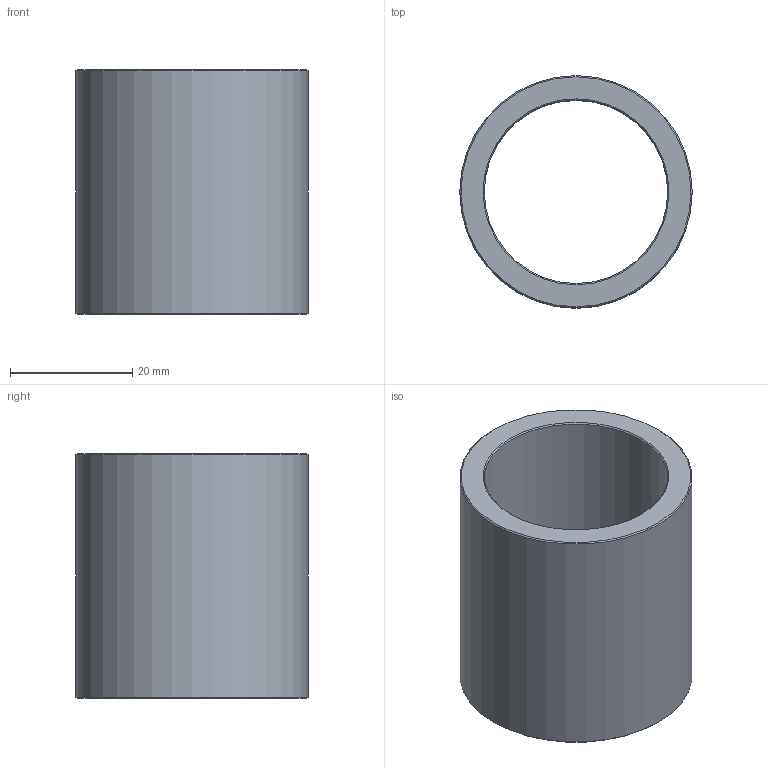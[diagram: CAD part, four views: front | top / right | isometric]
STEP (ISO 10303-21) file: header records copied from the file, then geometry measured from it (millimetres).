
FILE_DESCRIPTION(('STEP AP203'),'1');
FILE_NAME('C:/Users/Rodrigo/Desktop/GA4.030.040-1.step','2016-11-07T16:54:11',(' '),(' '),'Spatial InterOp 3D',' ',' ');
FILE_SCHEMA(('CONFIG_CONTROL_DESIGN'));
Length unit declared in the file: millimetre
Products named in the file (1): 1
Bounding box: 38 x 38 x 40 mm (x, y, z)
Volume: 17081.7 mm3; surface area: 9349.6 mm2
Topology: 1 solids, 1 shells, 8 faces, 14 edges, 8 vertices
Faces by surface type: cone 4, cylinder 2, plane 2
Full cylindrical faces by diameter (mm): 30 x1, 38 x1
Entity records: 212 total; most frequent: DIRECTION 34, CARTESIAN_POINT 25, AXIS2_PLACEMENT_3D 17, EDGE_LOOP 16, ORIENTED_EDGE 16, FACE_OUTER_BOUND 10, ADVANCED_FACE 8, EDGE_CURVE 8
